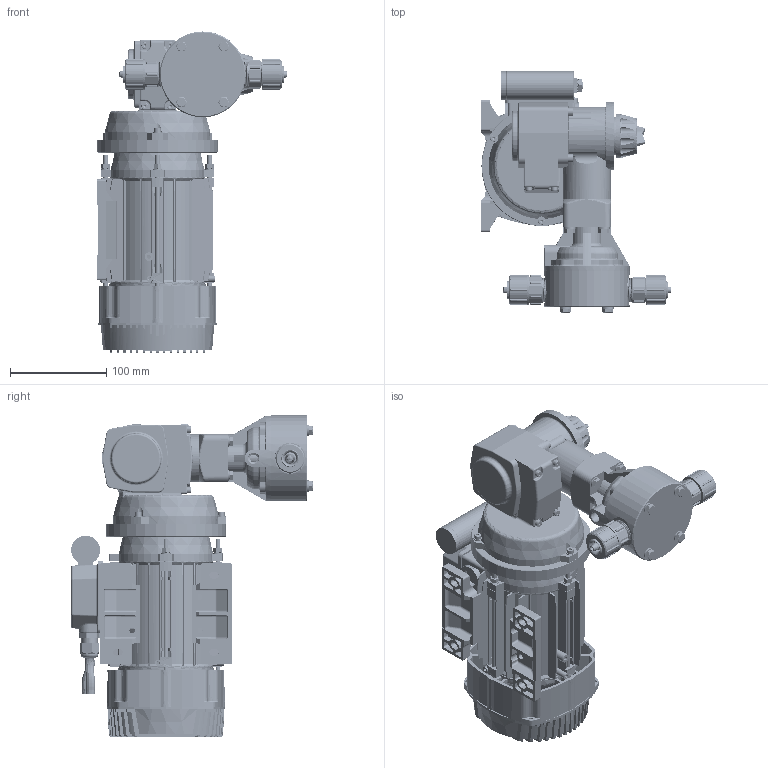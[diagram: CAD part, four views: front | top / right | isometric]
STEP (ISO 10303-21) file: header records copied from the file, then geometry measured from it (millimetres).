
FILE_DESCRIPTION(/* description */ ('Unknown'),/* implementation_level */ '2;1');
FILE_NAME(/* name */ '10302352 MIDIDOS C 24 PVC_FPM',/* time_stamp */ '2024-01-15T15:29:02+01:00',/* author */ ('Unknown'),/* organization */ ('Unknown'),/* preprocessor_version */ 'ST-DEVELOPER v16.7',/* originating_system */ 'DEX',/* authorisation */ $);
FILE_SCHEMA (('AUTOMOTIVE_DESIGN {1 0 10303 214 3 1 1}'));
Length unit declared in the file: millimetre
Products named in the file (59): D-00025493; 34364_getriebe vormontiert tm45_110_b-0000007902; 21252_getriebegehäuse memdos tm _ fedos tk_e-0000022691; din625-t1-6202-'2rs_15x35x11_e-0000005262; sicher.ring din471-15x1-t1_e-0000002344; 21295_e-0000011457; din625-t1-6203-'2rs_17x40x12_e-0000012323; 21272_e-0000007577; 18160 schneckenrad a31; 21210_e-0000007848; sicher.ring din472-40x1,75-t1_e-0000002975; 83406 paßfeder 5x5x8; 86099_passscheibe as 1528. st 60_e-0000022763; DIN 617-NA4902-15x28x13; 21270_e-0000007863; 21211_gehäusedeckel_e-0000022766; zylinderschr. din 912-m4 x12_e-0000001345; 28736_exzentergehäuse memdos tm _ fedos tk_e-0000022729; zylinderschraube din 912-m5x16; 29764_e-0000009302; skala mit aufdruck; 84179 tellerfeder; 83661_e-0000009518; Zylinderschraube DIN 912-M5x20; 28421_verstellexzenter memdos tm_e-0000022776; 18177_druckfeder in 32891_e-0000022773; E-00055216; 81465_b-0000004133; 81465 membrane kpl. d 64 epdm; 22065 einlegeteil f. membrane d 64 ms58; sechsk.schr.iso4017-m6x16_e-0000000890; 11376 schneckenwelle a31 i15; 32980 klemmanschluß 6-12,g5-8 pvc; 88116 Überwurfmutter G 5-8 PVC; 32571 Schneidring  Ms58; 32572 Klemmanschluß 6-12 Bund d20 PVDF; D-00013139_oa_0; E-00055222; 21298_e-0000013424; E-00061306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
Assembly tree (99 placements, depth 3):
  D-00025493
    34364_getriebe vormontiert tm45_110_b-0000007902
      21252_getriebegehäuse memdos tm _ fedos tk_e-0000022691
      sicher.ring din471-15x1-t1_e-0000002344
      21295_e-0000011457
      21272_e-0000007577
      18160 schneckenrad a31
      21210_e-0000007848
      sicher.ring din472-40x1,75-t1_e-0000002975
      83406 paßfeder 5x5x8
      86099_passscheibe as 1528. st 60_e-0000022763  x2
      DIN 617-NA4902-15x28x13
      21270_e-0000007863
      21211_gehäusedeckel_e-0000022766
      zylinderschr. din 912-m4 x12_e-0000001345  x4
    28736_exzentergehäuse memdos tm _ fedos tk_e-0000022729
    zylinderschraube din 912-m5x16
    29764_e-0000009302
    skala mit aufdruck
    84179 tellerfeder
    83661_e-0000009518
    Zylinderschraube DIN 912-M5x20  x3
    28421_verstellexzenter memdos tm_e-0000022776
    18177_druckfeder in 32891_e-0000022773
    E-00055216
    81465_b-0000004133
      81465 membrane kpl. d 64 epdm
      22065 einlegeteil f. membrane d 64 ms58
    sechsk.schr.iso4017-m6x16_e-0000000890  x4
    11376 schneckenwelle a31 i15
    32980 klemmanschluß 6-12,g5-8 pvc  x2
      88116 Überwurfmutter G 5-8 PVC
      32571 Schneidring  Ms58
      32572 Klemmanschluß 6-12 Bund d20 PVDF
    D-00013139_oa_0
      E-00055222
    21298_e-0000013424
    E-00061306
    E-00061311
    18187 saugventil dn 6 pvc
      81037 Flachdichtung d20-9x1,5  x2
      10017 Kugel d10 Keramik  x2
      81033 Flachdichtung d27-12x1
      82406 Ventilsitz DN6 PVC  x2
      82405 Kugelführung DN 6 PVC  x2
      18189.v03_ventilgehäuse dn 6 g 3_4 spritzguss mit nut für o-ring ø12,
4x2,62_e-0000031787
      80004_o-ring 12,6x2,62_e-0000027227
    scheibe din 125-6,4-a1  x8
    zylinderschr. din 912-m4x20_e-0000005527  x3
    scheibe din 125-4,3-a1_e-0000000013  x3
    18188 druckventil dn 6 pvc
      81037 Flachdichtung d20-9x1,5  x2
      18189.v03_ventilgehäuse dn 6 g 3_4 spritzguss mit nut für o-ring ø12,
4x2,62_e-0000031787
      82405 Kugelführung DN 6 PVC  x2
      82406 Ventilsitz DN6 PVC  x2
      81033 Flachdichtung d27-12x1
      10017 Kugel d10 Keramik  x2
      80004_o-ring 12,6x2,62_e-0000027227
    zylinderschr. din 912-m5 x20_e-0000000757  x4
    18113 membrangehäuse d 64 pvc
Bounding box: 197.6 x 251.1 x 333.7 mm (x, y, z)
Volume: 2280112.2 mm3; surface area: 935295.9 mm2
Topology: 168 solids, 173 shells, 7384 faces, 18569 edges, 11517 vertices
Faces by surface type: plane 2813, cylinder 2056, bspline 1022, cone 743, torus 646, sphere 104
Full cylindrical faces by diameter (mm): 1.7 x2, 2 x1, 2.5 x4, 3 x4, 3.141 x7, 3.2 x6, 3.242 x8, 3.3 x12, 4 x16, 4.019 x4, 4.13 x6, 4.134 x4, 4.2 x12, 4.3 x4, 4.5 x12, 4.6 x4, 4.773 x8, 4.9 x1, 4.917 x9, 5 x22, 5.3 x6, 5.5 x4, 5.8 x8, 6 x30, 6.2 x2, 6.4 x8, 6.5 x4, 6.6 x1, 6.8 x4, 7 x19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
Entity records: 228142 total; most frequent: CARTESIAN_POINT 78450, ORIENTED_EDGE 31274, DIRECTION 28451, EDGE_CURVE 15637, AXIS2_PLACEMENT_3D 11130, VERTEX_POINT 10182, FACE_BOUND 8031, EDGE_LOOP 7984
